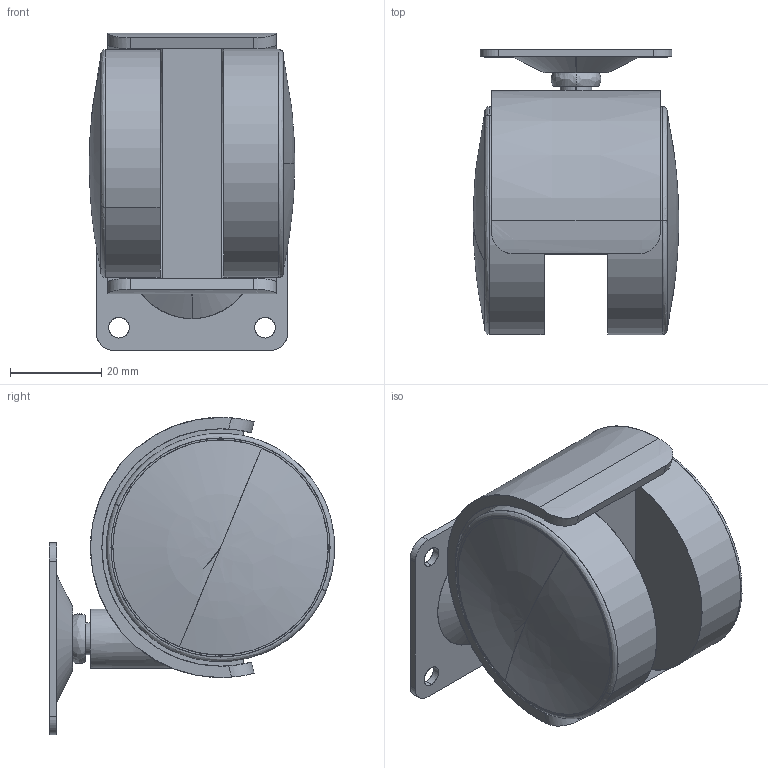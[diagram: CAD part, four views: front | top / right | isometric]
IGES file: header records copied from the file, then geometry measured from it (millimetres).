
Start section: SolidWorks IGES file using analytic representation for surfaces
Bounding box: 45 x 62.5 x 69.5 mm (x, y, z)
Surface area: 26263.7 mm2 (no closed solid volume)
Topology: 0 solids, 0 shells, 67 faces, 1658 edges, 1656 vertices
Faces by surface type: revolution 39, bspline 28
